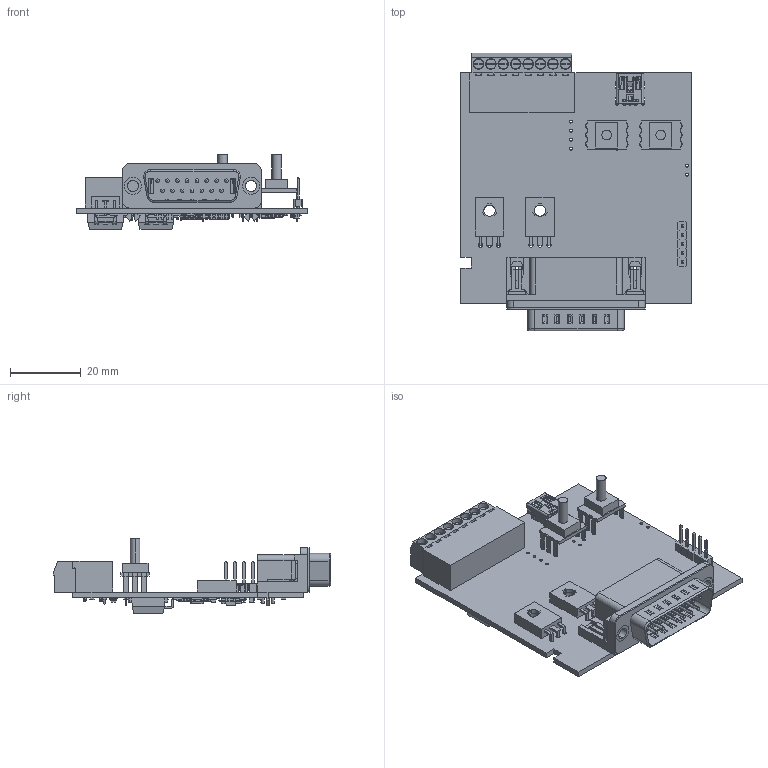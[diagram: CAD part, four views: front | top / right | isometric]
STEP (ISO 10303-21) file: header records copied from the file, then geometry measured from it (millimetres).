
FILE_DESCRIPTION (( 'STEP AP214' ), '1' );
FILE_NAME ('FGT_PRTEXT_0222_PRM-FOEM.STEP', '2023-09-29T15:42:52', ( '' ), ( '' ), 'SwSTEP 2.0', 'SolidWorks 2023', '' );
FILE_SCHEMA (( 'AUTOMOTIVE_DESIGN' ));
Length unit declared in the file: inch
Products named in the file (1): FGT_PRTEXT_0222_PRM-FOEM
Bounding box: 65 x 78.16 x 21.12 mm (x, y, z)
Volume: 16729.3 mm3; surface area: 26126.2 mm2
Topology: 68 solids, 78 shells, 5244 faces, 13998 edges, 8966 vertices
Faces by surface type: plane 3307, cylinder 1372, bspline 494, cone 42, sphere 21, torus 8
Entity records: 261613 total; most frequent: CARTESIAN_POINT 62770, ORIENTED_EDGE 27898, DIRECTION 25402, EDGE_CURVE 13949, VECTOR 10524, LINE 10524, VERTEX_POINT 8936, AXIS2_PLACEMENT_3D 7439
